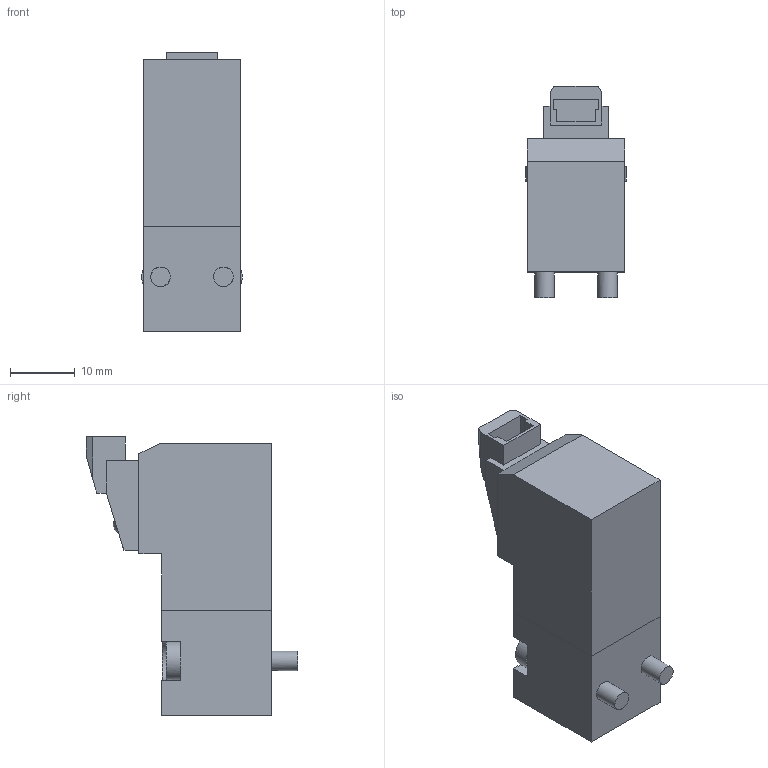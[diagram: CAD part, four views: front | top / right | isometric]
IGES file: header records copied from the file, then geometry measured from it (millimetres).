
Global section: file name: N3##_7L#-2; native system: Autodesk Inventor 2014; preprocessor: unknown; author: A. Manieri; organization: Pneumax S.p.A.; date: 20160913.142018; units: millimetre
Bounding box: 15.5 x 32.6 x 42.97 mm (x, y, z)
Volume: 12259.8 mm3; surface area: 4105.8 mm2
Topology: 1 solids, 1 shells, 91 faces, 237 edges, 155 vertices
Faces by surface type: bspline 91
